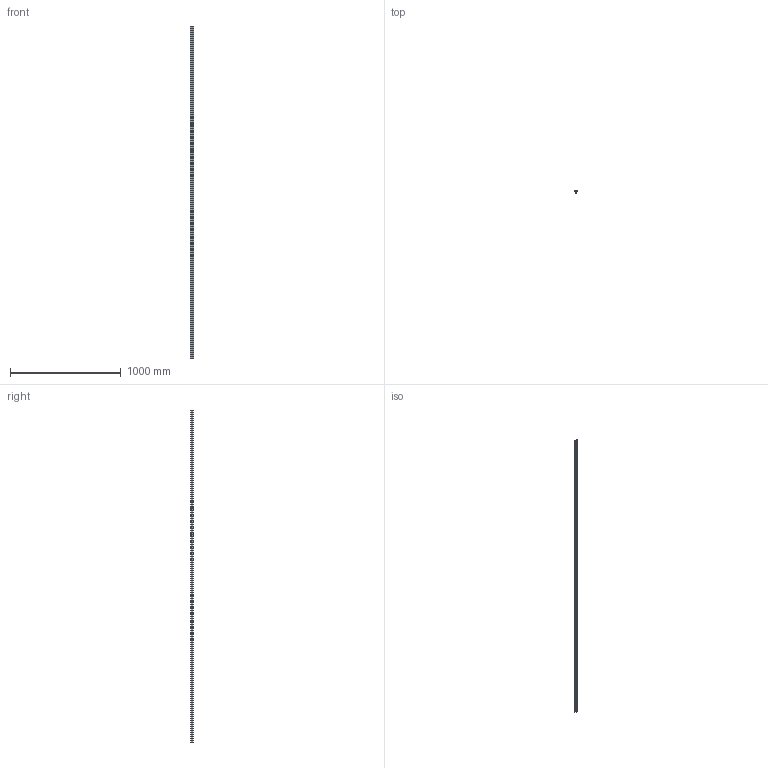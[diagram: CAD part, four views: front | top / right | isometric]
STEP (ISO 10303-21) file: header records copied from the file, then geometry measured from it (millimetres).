
FILE_DESCRIPTION (( 'STEP AP214' ), '1' );
FILE_NAME ('P10488L3.STEP', '2024-01-24T08:40:22', ( '' ), ( '' ), 'SwSTEP 2.0', 'SolidWorks 2022', '' );
FILE_SCHEMA (( 'AUTOMOTIVE_DESIGN' ));
Length unit declared in the file: millimetre
Products named in the file (1): P10488L3
Bounding box: 33.5 x 19.8 x 3000 mm (x, y, z)
Volume: 988396.3 mm3; surface area: 387423.7 mm2
Topology: 1 solids, 1 shells, 28 faces, 78 edges, 52 vertices
Faces by surface type: plane 16, cylinder 12
Entity records: 940 total; most frequent: DIRECTION 160, CARTESIAN_POINT 159, ORIENTED_EDGE 156, EDGE_CURVE 78, VECTOR 54, LINE 54, AXIS2_PLACEMENT_3D 53, VERTEX_POINT 52
